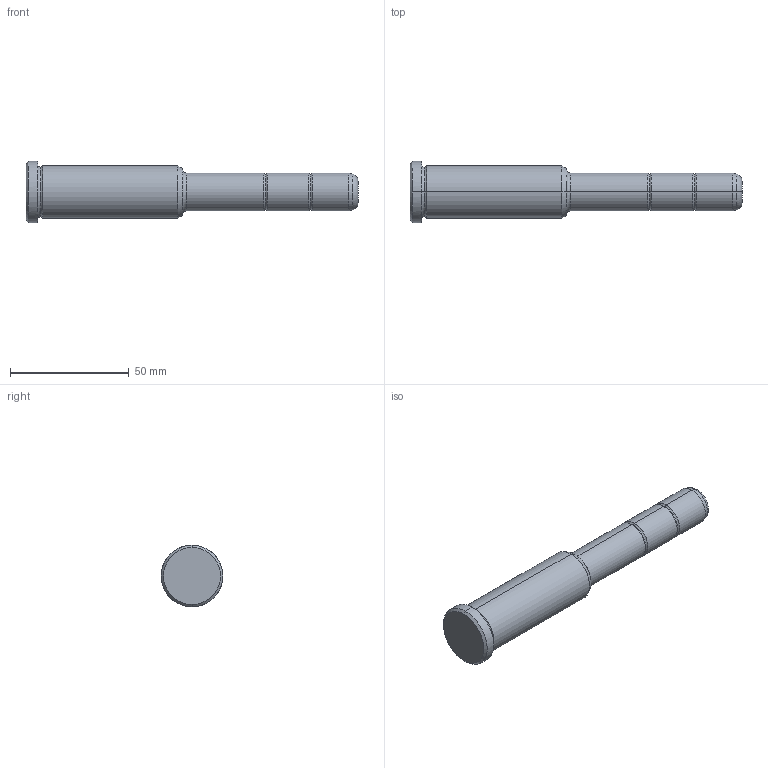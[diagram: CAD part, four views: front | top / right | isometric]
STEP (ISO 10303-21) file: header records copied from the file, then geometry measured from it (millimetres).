
FILE_DESCRIPTION(('CATIA V5 STEP Exchange'),'2;1');
FILE_NAME('C:\Users\Utente\Desktop\IO LAVORO\3D X SITO CF\X SITO\PLASTICA\351\351-16X66X140.stp','2021-08-18T11:44:58+00:00',('none'),('none'),'CATIA Version 5 Release 20 GA (IN-10)','CATIA V5 STEP AP203','none');
FILE_SCHEMA(('CONFIG_CONTROL_DESIGN'));
Length unit declared in the file: millimetre
Products named in the file (1): 351-16X66X140
Bounding box: 140 x 26 x 26 mm (x, y, z)
Volume: 40381.9 mm3; surface area: 9227.3 mm2
Topology: 1 solids, 1 shells, 36 faces, 102 edges, 70 vertices
Faces by surface type: torus 16, cylinder 10, cone 6, plane 4
Entity records: 1292 total; most frequent: CARTESIAN_POINT 321, ORIENTED_EDGE 204, DIRECTION 166, AXIS2_PLACEMENT_3D 115, EDGE_CURVE 102, CIRCLE 78, VERTEX_POINT 70, EDGE_LOOP 38
